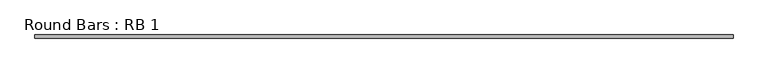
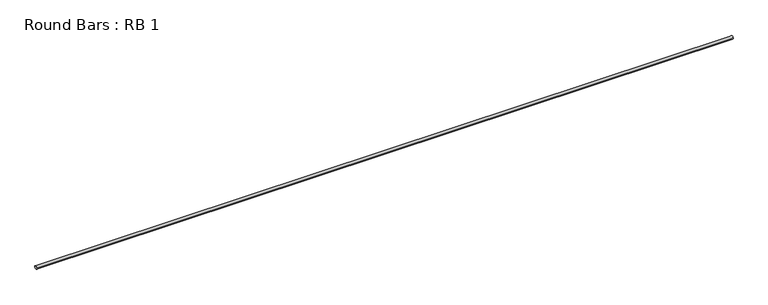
"""IFC4 building model written with IfcOpenShell, lengths in millimetres: beam geometry, Round Bars : RB 1."""

import ifcopenshell
import ifcopenshell.guid

model = None  # the IFC model being written
_history = None  # IfcOwnerHistory: only IFC2X3 demands one
_inside = {}  # id of a spatial element -> (the spatial element, [elements in it])
_under = {}  # id of a project, library or spatial element -> (it, [spatial elements below it])
_declared = {}  # id of a project -> (the project, [libraries it declares])
_typed = {}  # id of a type object -> (the type object, [elements of that type])
_made_of = {}  # id of a material, layer set ... -> (it, [elements and type objects made of it])


def new_model(schema):
    """Start an empty IFC model of exactly this schema.

    Asked for "IFC4X3", IfcOpenShell would pick the latest addendum, in which some entities
    have other attributes; the version numbers below select the first issue.
    IFC2X3 requires an IfcOwnerHistory on every rooted entity: one is made here for all.
    """
    global model, _history
    if schema == "IFC4X3":
        model = ifcopenshell.file(schema_version=(4, 3, 0, 0))
    else:
        model = ifcopenshell.file(schema=schema)
    _inside.clear()
    _under.clear()
    _declared.clear()
    _typed.clear()
    _made_of.clear()
    _history = None
    if model.schema == "IFC2X3":
        org = make("IfcOrganization", Name="unknown")
        user = make(
            "IfcPersonAndOrganization",
            ThePerson=make("IfcPerson", FamilyName="unknown"),
            TheOrganization=org,
        )
        app = make(
            "IfcApplication",
            ApplicationDeveloper=org,
            Version="unknown",
            ApplicationFullName="unknown",
            ApplicationIdentifier="unknown",
        )
        _history = make(
            "IfcOwnerHistory",
            OwningUser=user,
            OwningApplication=app,
            ChangeAction="ADDED",
            CreationDate=0,
        )
    return model


def make(cls, **values):
    """One entity of the class cls with the attributes given. An attribute that is None is left unset."""
    return model.create_entity(
        cls, **{name: value for name, value in values.items() if value is not None}
    )


def rooted(cls, **values):
    """An entity with a GlobalId (a new one), such as an element, a storey or a relation."""
    return make(cls, GlobalId=ifcopenshell.guid.new(), OwnerHistory=_history, **values)


def si_unit(unit_type, name, prefix=None):
    """IfcSIUnit, for example si_unit("LENGTHUNIT", "METRE", prefix="MILLI")."""
    return make("IfcSIUnit", UnitType=unit_type, Prefix=prefix, Name=name)


def assignment(units):
    """IfcUnitAssignment: the units of a project."""
    return None if units is None else make("IfcUnitAssignment", Units=units)


def point(xyz):
    """IfcCartesianPoint."""
    return None if xyz is None else make("IfcCartesianPoint", Coordinates=xyz)


def direction(xyz):
    """IfcDirection."""
    return None if xyz is None else make("IfcDirection", DirectionRatios=xyz)


def frame(location, z_axis=None, x_axis=None):
    """IfcAxis2Placement3D, a coordinate frame: its origin and axes. An axis left out is left unset."""
    return make(
        "IfcAxis2Placement3D",
        Location=point(location),
        Axis=direction(z_axis),
        RefDirection=direction(x_axis),
    )


def frame_2d(location, x_axis=None):
    """IfcAxis2Placement2D, a coordinate frame in the plane: its origin and x axis."""
    return make(
        "IfcAxis2Placement2D", Location=point(location), RefDirection=direction(x_axis)
    )


def origin():
    """The frame at (0, 0, 0) with its axes left unset."""
    return frame((0.0, 0.0, 0.0))


def origin_2d():
    """The frame at (0, 0) in the plane with its x axis left unset."""
    return frame_2d((0.0, 0.0))


def place(relative_to, where):
    """IfcLocalPlacement: puts the frame where relative to a parent placement (None: the world)."""
    return make(
        "IfcLocalPlacement", PlacementRelTo=relative_to, RelativePlacement=where
    )


def context(
    kind, dimensions, precision=None, world=None, true_north=None, identifier=None
):
    """IfcGeometricRepresentationContext, for example the 3D "Model" context."""
    return make(
        "IfcGeometricRepresentationContext",
        ContextIdentifier=identifier,
        ContextType=kind,
        CoordinateSpaceDimension=dimensions,
        Precision=precision,
        WorldCoordinateSystem=world,
        TrueNorth=true_north,
    )


def project(units=None, contexts=None):
    """IfcProject with its units and contexts."""
    return rooted(
        "IfcProject",
        Name="project",
        RepresentationContexts=contexts,
        UnitsInContext=assignment(units),
    )


def spatial(cls, under=None, at=None, **own):
    """A site, building, storey or space (cls), placed at a placement, below another one or the project."""
    s = rooted(cls, ObjectPlacement=at, **own)
    if under is not None:
        _under.setdefault(under.id(), (under, []))[1].append(s)
    return s


def circle_curve(where, radius):
    """IfcCircle in the frame where."""
    return make("IfcCircle", Position=where, Radius=radius)


def trimmed(basis, trim1, trim2, sense, master):
    """IfcTrimmedCurve: the piece of a basis curve between two trims."""
    return make(
        "IfcTrimmedCurve",
        BasisCurve=basis,
        Trim1=trim1,
        Trim2=trim2,
        SenseAgreement=sense,
        MasterRepresentation=master,
    )


def segment(curve, same_sense, transition):
    """IfcCompositeCurveSegment."""
    return make(
        "IfcCompositeCurveSegment",
        Transition=transition,
        SameSense=same_sense,
        ParentCurve=curve,
    )


def composite_curve(segments, self_intersect=None):
    """IfcCompositeCurve: segments joined end to end."""
    return make("IfcCompositeCurve", Segments=segments, SelfIntersect=self_intersect)


def outline(outer, holes=None, kind="AREA"):
    """IfcArbitraryClosedProfileDef: a profile drawn as a closed curve; with holes, ...WithVoids."""
    if holes is None:
        return make("IfcArbitraryClosedProfileDef", ProfileType=kind, OuterCurve=outer)
    return make(
        "IfcArbitraryProfileDefWithVoids",
        ProfileType=kind,
        OuterCurve=outer,
        InnerCurves=holes,
    )


def extrude(swept, where, along, depth):
    """IfcExtrudedAreaSolid: the profile swept, set in the frame where, extruded along a direction by depth."""
    return make(
        "IfcExtrudedAreaSolid",
        SweptArea=swept,
        Position=where,
        ExtrudedDirection=direction(along),
        Depth=depth,
    )


def shape(context_of_items, identifier, shape_type, items):
    """IfcShapeRepresentation: the items that make up one representation, for example the "Body"."""
    return make(
        "IfcShapeRepresentation",
        ContextOfItems=context_of_items,
        RepresentationIdentifier=identifier,
        RepresentationType=shape_type,
        Items=items,
    )


def source(mapping_origin, context_of_items, identifier, shape_type, items):
    """IfcRepresentationMap: a shape defined once, which mapped items show again and again."""
    return make(
        "IfcRepresentationMap",
        MappingOrigin=mapping_origin,
        MappedRepresentation=shape(context_of_items, identifier, shape_type, items),
    )


def transform(
    local_origin,
    x_axis=None,
    y_axis=None,
    z_axis=None,
    scale=None,
    scale2=None,
    scale3=None,
    uniform=True,
):
    """IfcCartesianTransformationOperator3D, or its non-uniform kind. x_axis, y_axis, z_axis: its Axis1, 2, 3."""
    if uniform:
        return make(
            "IfcCartesianTransformationOperator3D",
            Axis1=direction(x_axis),
            Axis2=direction(y_axis),
            LocalOrigin=point(local_origin),
            Scale=scale,
            Axis3=direction(z_axis),
        )
    return make(
        "IfcCartesianTransformationOperator3DnonUniform",
        Axis1=direction(x_axis),
        Axis2=direction(y_axis),
        LocalOrigin=point(local_origin),
        Scale=scale,
        Axis3=direction(z_axis),
        Scale2=scale2,
        Scale3=scale3,
    )


def mapped(mapping_source, mapping_target):
    """IfcMappedItem: shows the shape of a source again, moved by a transform."""
    return make(
        "IfcMappedItem", MappingSource=mapping_source, MappingTarget=mapping_target
    )


def made_of(thing, what):
    """Note that an element or type object is made of a material, layer set ...; save() writes the relation."""
    if what is not None:
        _made_of.setdefault(what.id(), (what, []))[1].append(thing)
    return thing


def element(
    cls,
    number,
    at=None,
    inside=None,
    cuts=None,
    type_object=None,
    material=None,
    context=None,
    identifier="Body",
    shape_type=None,
    held_by="IfcProductDefinitionShape",
    body=None,
    shapes=None,
    **own,
):
    """One element of the class cls, such as IfcWall. Its Tag is "e" and its number.

    at: its placement. inside: the storey or other place that contains it. cuts: it is an
    opening in that element (IfcRelVoidsElement). A single representation is given by context,
    identifier, shape_type and body (its items); several are given by shapes. held_by: the class
    of the entity that holds the representations. save() writes the other relations.
    """
    e = rooted(cls, Tag="e%d" % number, ObjectPlacement=at, **own)
    if body is not None:
        shapes = [shape(context, identifier, shape_type, body)]
    if shapes is not None:
        e.Representation = make(held_by, Representations=shapes)
    if inside is not None:
        _inside.setdefault(inside.id(), (inside, []))[1].append(e)
    if cuts is not None:
        rooted(
            "IfcRelVoidsElement", RelatingBuildingElement=cuts, RelatedOpeningElement=e
        )
    if type_object is not None:
        _typed.setdefault(type_object.id(), (type_object, []))[1].append(e)
    return made_of(e, material)


def aggregate(whole, parts):
    """IfcRelAggregates: a whole, such as a stair, and the parts it consists of."""
    return rooted("IfcRelAggregates", RelatingObject=whole, RelatedObjects=parts)


def save(model, path):
    """Write the relations noted so far, then the file.

    IfcRelAggregates (storeys below a building ...), IfcRelContainedInSpatialStructure (elements
    in a storey), IfcRelDefinesByType, IfcRelAssociatesMaterial and IfcRelDeclares: one each for
    every whole, place, type object, material and project.
    """
    for whole, parts in _under.values():
        aggregate(whole, parts)
    for where, things in _inside.values():
        rooted(
            "IfcRelContainedInSpatialStructure",
            RelatedElements=things,
            RelatingStructure=where,
        )
    for kind, things in _typed.values():
        rooted("IfcRelDefinesByType", RelatedObjects=things, RelatingType=kind)
    for what, things in _made_of.values():
        rooted("IfcRelAssociatesMaterial", RelatedObjects=things, RelatingMaterial=what)
    for by, libraries in _declared.values():
        rooted("IfcRelDeclares", RelatingContext=by, RelatedDefinitions=libraries)
    model.write(path)


def round_bars_rb_1_c614382c(model_context):
    return source(origin(), model_context, "Body", "SweptSolid", [
        extrude(outline(composite_curve([segment(trimmed(circle_curve(origin_2d(), 12.7), [point((-12.7, 0.0))], [point((12.7, 0.0))], False, "CARTESIAN"), True, "CONTINUOUS"), segment(trimmed(circle_curve(origin_2d(), 12.7), [point((12.7, 0.0))], [point((-12.7, 0.0))], False, "CARTESIAN"), True, "CONTINUOUS")], self_intersect=False)), frame((-2788.5929692, 0.0, 0.0), z_axis=(1.0, 0.0, 0.0), x_axis=(0.0, 1.0, 0.0)), (0.0, 0.0, 1.0), 5582.6670331),
    ])


if __name__ == "__main__":
    model = new_model("IFC4")
    model_context = context("Model", 3, world=origin())
    ifc_project = project(units=[si_unit("LENGTHUNIT", "METRE", prefix="MILLI")], contexts=[model_context])
    site = spatial("IfcSite", under=ifc_project)
    building = spatial("IfcBuilding", under=site)
    placement = place(None, origin())
    round_bars_rb_1_shape = round_bars_rb_1_c614382c(model_context)
    element("IfcBeam", 1, ObjectType="Round Bars : RB 1", at=placement, inside=building, context=model_context, shape_type="MappedRepresentation", body=[
        mapped(round_bars_rb_1_shape, transform((0.0, 0.0, 0.0), x_axis=(1.0, 0.0, 0.0), y_axis=(0.0, 1.0, 0.0), z_axis=(0.0, 0.0, 1.0))),
    ])
    save(model, "model.ifc")
